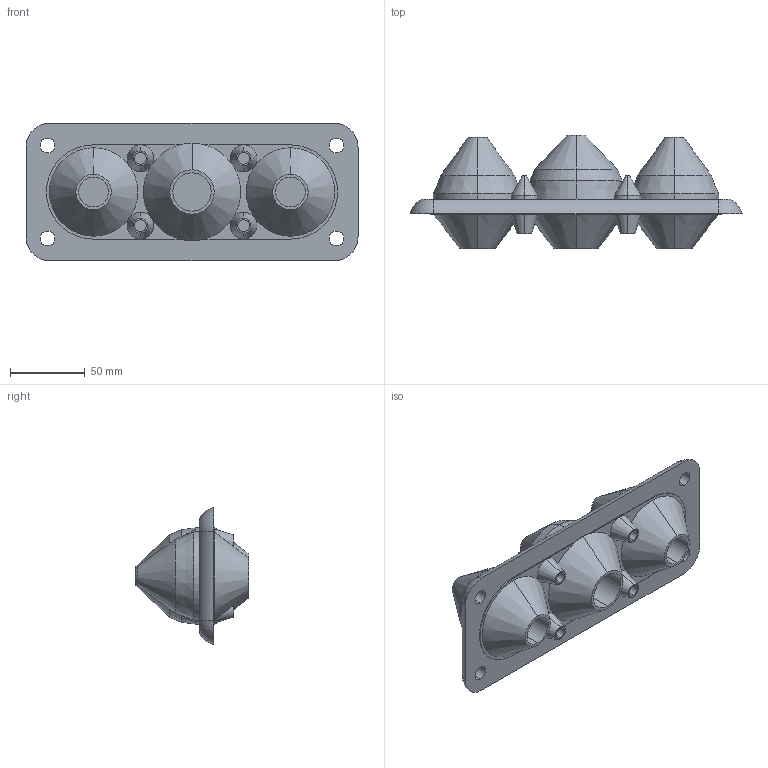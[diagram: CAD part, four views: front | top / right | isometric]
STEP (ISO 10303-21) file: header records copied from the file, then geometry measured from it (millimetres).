
FILE_DESCRIPTION (( 'STEP AP203' ), '1' );
FILE_NAME ('105041.STEP', '2012-12-04T08:14:22', ( 'Joni' ), ( 'Hewlett-Packard Company' ), 'SwSTEP 2.0', 'SolidWorks 2012', '' );
FILE_SCHEMA (( 'CONFIG_CONTROL_DESIGN' ));
Length unit declared in the file: millimetre
Products named in the file (1): 105041
Bounding box: 221.75 x 76 x 91.75 mm (x, y, z)
Volume: 452458.3 mm3; surface area: 76406.1 mm2
Topology: 1 solids, 8 shells, 159 faces, 380 edges, 236 vertices
Faces by surface type: cone 50, cylinder 49, plane 36, torus 16, bspline 8
Entity records: 4802 total; most frequent: CARTESIAN_POINT 1018, DIRECTION 841, ORIENTED_EDGE 732, EDGE_CURVE 366, AXIS2_PLACEMENT_3D 363, VERTEX_POINT 236, CIRCLE 211, EDGE_LOOP 180
